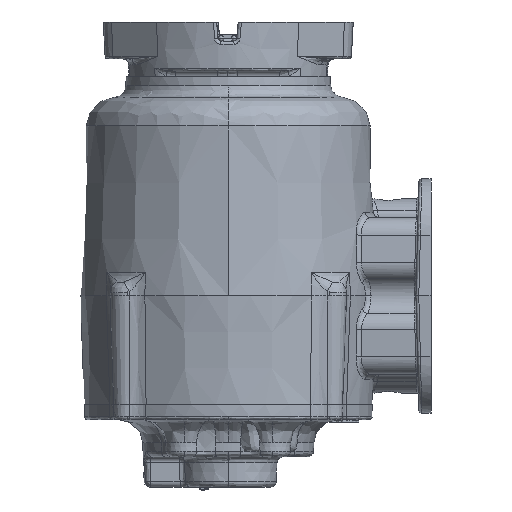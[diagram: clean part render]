
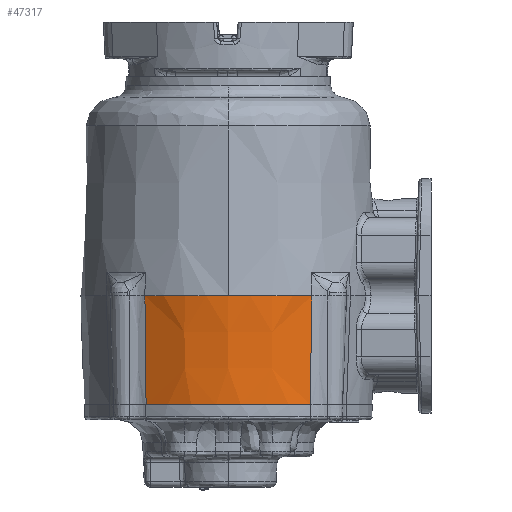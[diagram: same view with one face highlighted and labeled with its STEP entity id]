
A CAD part, left-side view. The second image highlights one B-rep face of the part: STEP entity #47317.
In plain terms, the highlighted conical face has half-angle 2 degrees and reference radius 78.232 mm.
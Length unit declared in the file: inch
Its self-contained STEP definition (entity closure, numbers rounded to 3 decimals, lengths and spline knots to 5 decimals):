
#3725 = VERTEX_POINT ( 'NONE', #188788 ) ;
#4811 = CARTESIAN_POINT ( 'NONE',  ( -3.76676, 5.05766, -0.77621 ) ) ;
#5739 = CARTESIAN_POINT ( 'NONE',  ( -3.74025, 5.04967, -1.53104 ) ) ;
#6456 = EDGE_CURVE ( 'NONE', #85664, #3725, #154915, .T. ) ;
#9119 = CARTESIAN_POINT ( 'NONE',  ( -3.76676, 1.60154, -0.77621 ) ) ;
#9418 = CARTESIAN_POINT ( 'NONE',  ( -3.71437, 1.61717, -2.2645 ) ) ;
#9707 = DIRECTION ( 'NONE',  ( 0., 0., 1. ) ) ;
#11445 = DIRECTION ( 'NONE',  ( 1., 0., 0. ) ) ;
#12693 = EDGE_CURVE ( 'NONE', #188047, #45983, #163598, .T. ) ;
#17257 = CIRCLE ( 'NONE', #96695, 3.08 ) ;
#20543 = ORIENTED_EDGE ( 'NONE', *, *, #86792, .F. ) ;
#29034 = ORIENTED_EDGE ( 'NONE', *, *, #87741, .F. ) ;
#37898 = AXIS2_PLACEMENT_3D ( 'NONE', #118722, #41193, #99636 ) ;
#39408 = CARTESIAN_POINT ( 'NONE',  ( -1.25, 3.3296, 0. ) ) ;
#41193 = DIRECTION ( 'NONE',  ( 0., 0., -1. ) ) ;
#45983 = VERTEX_POINT ( 'NONE', #56986 ) ;
#47317 = ADVANCED_FACE ( 'NONE', ( #140978 ), #55598, .T. ) ;
#55050 = CARTESIAN_POINT ( 'NONE',  ( -3.79389, 1.59322, 0. ) ) ;
#55598 = CONICAL_SURFACE ( 'NONE', #150424, 3.08, 0.035 ) ;
#56986 = CARTESIAN_POINT ( 'NONE',  ( -3.79389, 1.59322, 0. ) ) ;
#59344 = CIRCLE ( 'NONE', #37898, 3.00092 ) ;
#61799 = EDGE_LOOP ( 'NONE', ( #20543, #134011, #29034, #61950, #127190 ) ) ;
#61950 = ORIENTED_EDGE ( 'NONE', *, *, #12693, .T. ) ;
#63221 = CARTESIAN_POINT ( 'NONE',  ( -3.71437, 5.04203, -2.2645 ) ) ;
#67177 = DIRECTION ( 'NONE',  ( 1., 0., 0. ) ) ;
#74646 = CIRCLE ( 'NONE', #181769, 3.08 ) ;
#85664 = VERTEX_POINT ( 'NONE', #98040 ) ;
#86792 = EDGE_CURVE ( 'NONE', #85664, #101663, #74646, .T. ) ;
#87741 = EDGE_CURVE ( 'NONE', #188047, #3725, #59344, .T. ) ;
#92761 = EDGE_CURVE ( 'NONE', #101663, #45983, #17257, .T. ) ;
#96695 = AXIS2_PLACEMENT_3D ( 'NONE', #173344, #113993, #11445 ) ;
#98040 = CARTESIAN_POINT ( 'NONE',  ( -3.79389, 5.06598, 0. ) ) ;
#99636 = DIRECTION ( 'NONE',  ( 1., 0., 0. ) ) ;
#101663 = VERTEX_POINT ( 'NONE', #149445 ) ;
#113993 = DIRECTION ( 'NONE',  ( 0., 0., 1. ) ) ;
#118722 = CARTESIAN_POINT ( 'NONE',  ( -1.25, 3.3296, -2.2645 ) ) ;
#121721 = DIRECTION ( 'NONE',  ( 0., 0., 1. ) ) ;
#127190 = ORIENTED_EDGE ( 'NONE', *, *, #92761, .F. ) ;
#134011 = ORIENTED_EDGE ( 'NONE', *, *, #6456, .T. ) ;
#140978 = FACE_OUTER_BOUND ( 'NONE', #61799, .T. ) ;
#148629 = DIRECTION ( 'NONE',  ( 1., 0., 0. ) ) ;
#149445 = CARTESIAN_POINT ( 'NONE',  ( -4.33, 3.3296, 0. ) ) ;
#150424 = AXIS2_PLACEMENT_3D ( 'NONE', #39408, #9707, #67177 ) ;
#150458 = CARTESIAN_POINT ( 'NONE',  ( -3.79389, 5.06598, 0. ) ) ;
#150499 = CARTESIAN_POINT ( 'NONE',  ( -1.25, 3.3296, 0. ) ) ;
#154915 = B_SPLINE_CURVE_WITH_KNOTS ( 'NONE', 3,
 ( #150458, #4811, #5739, #63221 ),
 .UNSPECIFIED., .F., .F.,
 ( 4, 4 ),
 ( 0., 1. ),
 .UNSPECIFIED. ) ;
#157610 = CARTESIAN_POINT ( 'NONE',  ( -3.74025, 1.60953, -1.53104 ) ) ;
#163598 = B_SPLINE_CURVE_WITH_KNOTS ( 'NONE', 3,
 ( #186335, #157610, #9119, #55050 ),
 .UNSPECIFIED., .F., .F.,
 ( 4, 4 ),
 ( 0., 1. ),
 .UNSPECIFIED. ) ;
#173344 = CARTESIAN_POINT ( 'NONE',  ( -1.25, 3.3296, 0. ) ) ;
#181769 = AXIS2_PLACEMENT_3D ( 'NONE', #150499, #121721, #148629 ) ;
#186335 = CARTESIAN_POINT ( 'NONE',  ( -3.71437, 1.61717, -2.2645 ) ) ;
#188047 = VERTEX_POINT ( 'NONE', #9418 ) ;
#188788 = CARTESIAN_POINT ( 'NONE',  ( -3.71437, 5.04203, -2.2645 ) ) ;
